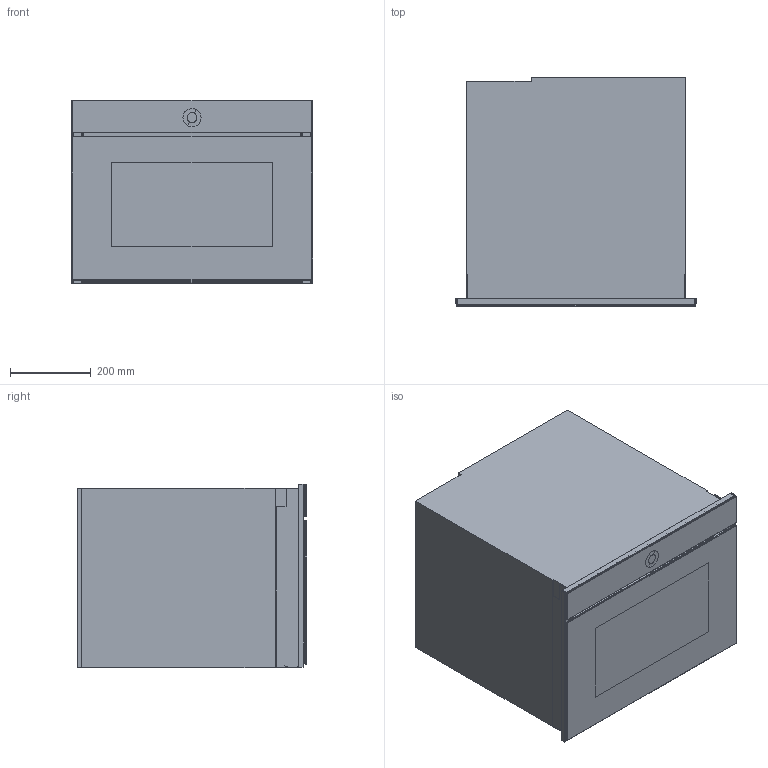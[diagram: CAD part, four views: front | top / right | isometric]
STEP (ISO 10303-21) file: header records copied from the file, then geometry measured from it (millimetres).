
FILE_DESCRIPTION(/* description */ (''),/* implementation_level */ '2;1');
FILE_NAME(/* name */ 'X2106700001',/* time_stamp */ '2020-10-13T13:31:11+02:00',/* author */ (''),/* organization */ (''),/* preprocessor_version */ 'ST-DEVELOPER v16.5',/* originating_system */ '',/* authorisation */ '');
FILE_SCHEMA (('AUTOMOTIVE_DESIGN'));
Length unit declared in the file: millimetre
Products named in the file (1): Document
Bounding box: 597 x 567.5 x 454.05 mm (x, y, z)
Volume: 128813999.4 mm3; surface area: 3045618.6 mm2
Topology: 11 solids, 11 shells, 296 faces, 723 edges, 434 vertices
Faces by surface type: plane 162, bspline 134
Entity records: 10725 total; most frequent: CARTESIAN_POINT 6236, ORIENTED_EDGE 1414, EDGE_CURVE 707, VERTEX_POINT 434, B_SPLINE_CURVE_WITH_KNOTS 402, EDGE_LOOP 303, ADVANCED_FACE 296, FACE_OUTER_BOUND 296
